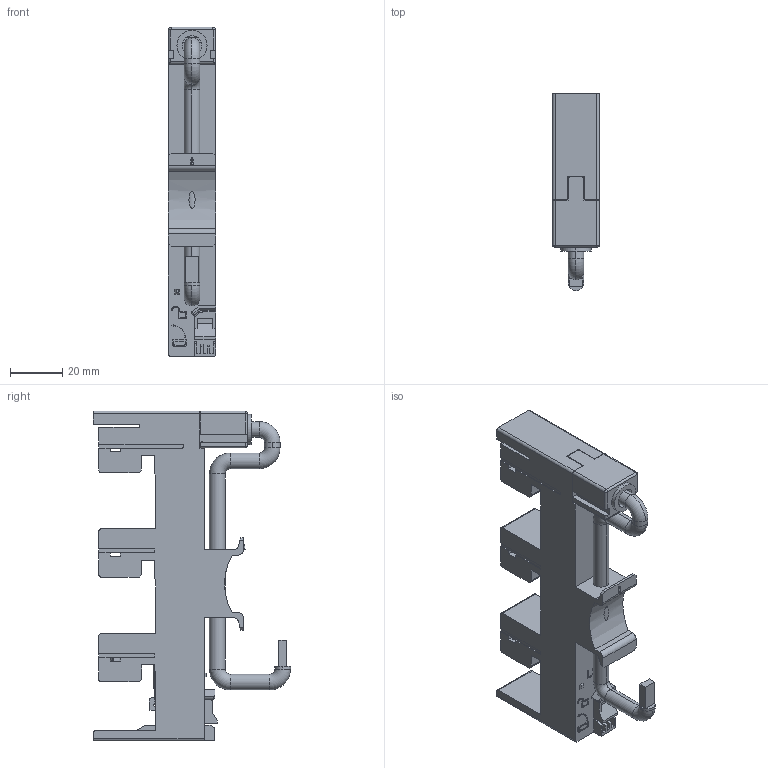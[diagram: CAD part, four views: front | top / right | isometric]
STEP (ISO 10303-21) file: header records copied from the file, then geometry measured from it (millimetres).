
FILE_DESCRIPTION (( 'STEP AP214' ), '1' );
FILE_NAME ('55622.STEP', '2022-08-03T08:18:07', ( 'Windows User' ), ( 'P R C' ), 'SwSTEP 2.0', 'SolidWorks 2019', '' );
FILE_SCHEMA (( 'AUTOMOTIVE_DESIGN' ));
Length unit declared in the file: millimetre
Products named in the file (1): 55622
Bounding box: 18 x 75.3 x 126 mm (x, y, z)
Volume: 74733.3 mm3; surface area: 26884.6 mm2
Topology: 1 solids, 1 shells, 558 faces, 1598 edges, 1031 vertices
Faces by surface type: plane 423, cylinder 104, torus 16, bspline 14, sphere 1
Entity records: 22645 total; most frequent: CARTESIAN_POINT 4751, ORIENTED_EDGE 3188, DIRECTION 2800, EDGE_CURVE 1594, VECTOR 1320, LINE 1320, VERTEX_POINT 1030, AXIS2_PLACEMENT_3D 740
